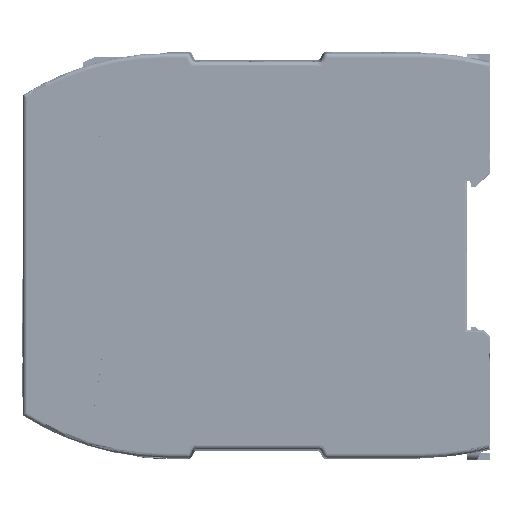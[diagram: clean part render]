
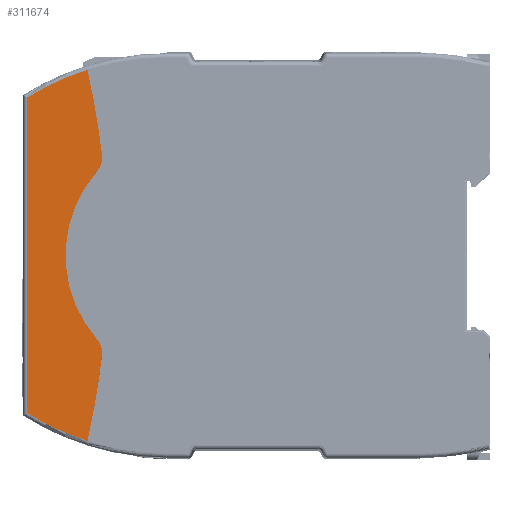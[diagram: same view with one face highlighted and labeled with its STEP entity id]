
A CAD part, left-side view. The second image highlights one B-rep face of the part: STEP entity #311674.
In plain terms, the highlighted planar face has unit normal (-1, 0, 0) as drawn and (0, 0, 1) by its records, which use the part's own axes.
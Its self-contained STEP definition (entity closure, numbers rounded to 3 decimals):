
#19981=FACE_OUTER_BOUND('',#36929,.T.);
#36929=EDGE_LOOP('',(#219974,#219975,#219976,#219977,#219978,#219979,#219980,
#219981));
#54937=CIRCLE('',#332276,200.);
#54940=CIRCLE('',#332286,62.539);
#54941=CIRCLE('',#332288,5.);
#54942=CIRCLE('',#332289,30.);
#54943=CIRCLE('',#332290,5.);
#54944=CIRCLE('',#332291,200.);
#54945=CIRCLE('',#332292,62.539);
#64242=LINE('',#470820,#99815);
#99815=VECTOR('',#366526,74.369);
#135595=VERTEX_POINT('',#470754);
#135596=VERTEX_POINT('',#470756);
#135605=VERTEX_POINT('',#470793);
#135606=VERTEX_POINT('',#470810);
#135607=VERTEX_POINT('',#470812);
#135608=VERTEX_POINT('',#470814);
#135609=VERTEX_POINT('',#470816);
#135610=VERTEX_POINT('',#470818);
#167607=EDGE_CURVE('',#135595,#135596,#54937,.T.);
#167620=EDGE_CURVE('',#135605,#135596,#54940,.T.);
#167622=EDGE_CURVE('',#135595,#135606,#54941,.T.);
#167623=EDGE_CURVE('',#135606,#135607,#54942,.T.);
#167624=EDGE_CURVE('',#135607,#135608,#54943,.T.);
#167625=EDGE_CURVE('',#135609,#135608,#54944,.T.);
#167626=EDGE_CURVE('',#135609,#135610,#54945,.T.);
#167627=EDGE_CURVE('',#135610,#135605,#64242,.T.);
#219974=ORIENTED_EDGE('',*,*,#167622,.T.);
#219975=ORIENTED_EDGE('',*,*,#167623,.T.);
#219976=ORIENTED_EDGE('',*,*,#167624,.T.);
#219977=ORIENTED_EDGE('',*,*,#167625,.F.);
#219978=ORIENTED_EDGE('',*,*,#167626,.T.);
#219979=ORIENTED_EDGE('',*,*,#167627,.T.);
#219980=ORIENTED_EDGE('',*,*,#167620,.T.);
#219981=ORIENTED_EDGE('',*,*,#167607,.F.);
#298422=PLANE('',#332287);
#311674=ADVANCED_FACE('',(#19981),#298422,.T.);
#332276=AXIS2_PLACEMENT_3D('',#470757,#366486,#366487);
#332286=AXIS2_PLACEMENT_3D('',#470794,#366512,#366513);
#332287=AXIS2_PLACEMENT_3D('',#470809,#366514,#366515);
#332288=AXIS2_PLACEMENT_3D('',#470811,#366516,#366517);
#332289=AXIS2_PLACEMENT_3D('',#470813,#366518,#366519);
#332290=AXIS2_PLACEMENT_3D('',#470815,#366520,#366521);
#332291=AXIS2_PLACEMENT_3D('',#470817,#366522,#366523);
#332292=AXIS2_PLACEMENT_3D('',#470819,#366524,#366525);
#366486=DIRECTION('center_axis',(0.,0.,-1.));
#366487=DIRECTION('ref_axis',(-0.118,-0.993,0.));
#366512=DIRECTION('center_axis',(0.,0.,1.));
#366513=DIRECTION('ref_axis',(-0.849,0.528,0.));
#366514=DIRECTION('center_axis',(0.,0.,1.));
#366515=DIRECTION('ref_axis',(1.,0.,0.));
#366516=DIRECTION('center_axis',(0.,0.,1.));
#366517=DIRECTION('ref_axis',(-0.118,-0.993,0.));
#366518=DIRECTION('center_axis',(0.,0.,-1.));
#366519=DIRECTION('ref_axis',(-0.658,0.753,0.));
#366520=DIRECTION('center_axis',(0.,0.,1.));
#366521=DIRECTION('ref_axis',(-0.658,-0.753,0.));
#366522=DIRECTION('center_axis',(0.,0.,-1.));
#366523=DIRECTION('ref_axis',(0.218,-0.976,0.));
#366524=DIRECTION('center_axis',(0.,0.,1.));
#366525=DIRECTION('ref_axis',(0.954,0.301,0.));
#366526=DIRECTION('',(-1.,0.,0.));
#470754=CARTESIAN_POINT('',(-23.611,91.399,11.25));
#470756=CARTESIAN_POINT('',(-43.697,94.832,11.25));
#470757=CARTESIAN_POINT('Origin',(0.,290.,11.25));
#470793=CARTESIAN_POINT('',(-37.185,109.,11.25));
#470794=CARTESIAN_POINT('Origin',(15.939,76.,11.25));
#470809=CARTESIAN_POINT('Origin',(0.,0.,11.25));
#470810=CARTESIAN_POINT('',(-19.732,92.597,11.25));
#470811=CARTESIAN_POINT('Origin',(-23.021,96.364,11.25));
#470812=CARTESIAN_POINT('',(19.732,92.597,11.25));
#470813=CARTESIAN_POINT('Origin',(0.,70.,11.25));
#470814=CARTESIAN_POINT('',(23.611,91.399,11.25));
#470815=CARTESIAN_POINT('Origin',(23.021,96.364,11.25));
#470816=CARTESIAN_POINT('',(43.697,94.832,11.25));
#470817=CARTESIAN_POINT('Origin',(0.,290.,11.25));
#470818=CARTESIAN_POINT('',(37.185,109.,11.25));
#470819=CARTESIAN_POINT('Origin',(-15.939,76.,11.25));
#470820=CARTESIAN_POINT('',(37.185,109.,11.25));
